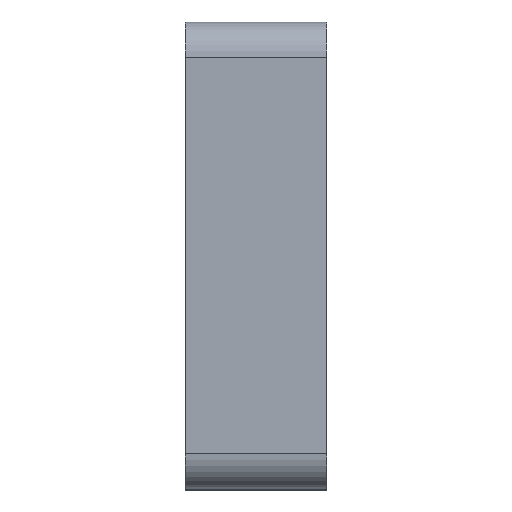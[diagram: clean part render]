
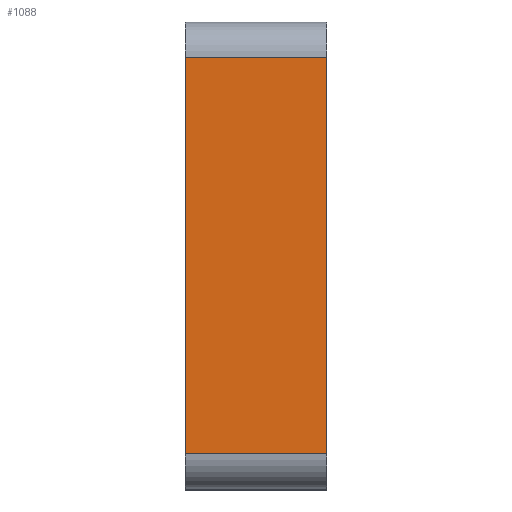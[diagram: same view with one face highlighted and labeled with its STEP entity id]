
A CAD part, top view. The second image highlights one B-rep face of the part: STEP entity #1088.
In plain terms, the highlighted planar face has unit normal (0, 0, 1).
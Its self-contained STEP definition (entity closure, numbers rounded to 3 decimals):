
#62 = PLANE('',#63);
#63 = AXIS2_PLACEMENT_3D('',#64,#65,#66);
#64 = CARTESIAN_POINT('',(-4.,21.,17.2));
#65 = DIRECTION('',(1.,0.,0.));
#66 = DIRECTION('',(-0.,0.,1.));
#118 = PLANE('',#119);
#119 = AXIS2_PLACEMENT_3D('',#120,#121,#122);
#120 = CARTESIAN_POINT('',(4.,21.,17.2));
#121 = DIRECTION('',(1.,0.,0.));
#122 = DIRECTION('',(-0.,0.,1.));
#213 = VERTEX_POINT('',#214);
#214 = CARTESIAN_POINT('',(-4.,32.25,30.8));
#229 = CYLINDRICAL_SURFACE('',#230,2.);
#230 = AXIS2_PLACEMENT_3D('',#231,#232,#233);
#231 = CARTESIAN_POINT('',(-4.,32.25,28.8));
#232 = DIRECTION('',(1.,0.,0.));
#233 = DIRECTION('',(-0.,1.,0.));
#241 = EDGE_CURVE('',#213,#242,#244,.T.);
#242 = VERTEX_POINT('',#243);
#243 = CARTESIAN_POINT('',(-4.,9.75,30.8));
#244 = SURFACE_CURVE('',#245,(#249,#256),.PCURVE_S1.);
#245 = LINE('',#246,#247);
#246 = CARTESIAN_POINT('',(-4.,34.25,30.8));
#247 = VECTOR('',#248,1.);
#248 = DIRECTION('',(0.,-1.,0.));
#249 = PCURVE('',#62,#250);
#250 = DEFINITIONAL_REPRESENTATION('',(#251),#255);
#251 = LINE('',#252,#253);
#252 = CARTESIAN_POINT('',(13.6,-13.25));
#253 = VECTOR('',#254,1.);
#254 = DIRECTION('',(0.,1.));
#255 = ( GEOMETRIC_REPRESENTATION_CONTEXT(2) 
PARAMETRIC_REPRESENTATION_CONTEXT() REPRESENTATION_CONTEXT('2D SPACE',''
  ) );
#256 = PCURVE('',#257,#262);
#257 = PLANE('',#258);
#258 = AXIS2_PLACEMENT_3D('',#259,#260,#261);
#259 = CARTESIAN_POINT('',(-4.,34.25,30.8));
#260 = DIRECTION('',(0.,0.,-1.));
#261 = DIRECTION('',(0.,-1.,0.));
#262 = DEFINITIONAL_REPRESENTATION('',(#263),#267);
#263 = LINE('',#264,#265);
#264 = CARTESIAN_POINT('',(0.,-0.));
#265 = VECTOR('',#266,1.);
#266 = DIRECTION('',(1.,0.));
#267 = ( GEOMETRIC_REPRESENTATION_CONTEXT(2) 
PARAMETRIC_REPRESENTATION_CONTEXT() REPRESENTATION_CONTEXT('2D SPACE',''
  ) );
#286 = CYLINDRICAL_SURFACE('',#287,2.);
#287 = AXIS2_PLACEMENT_3D('',#288,#289,#290);
#288 = CARTESIAN_POINT('',(-4.,9.75,28.8));
#289 = DIRECTION('',(1.,0.,0.));
#290 = DIRECTION('',(0.,-0.,1.));
#707 = VERTEX_POINT('',#708);
#708 = CARTESIAN_POINT('',(4.,32.25,30.8));
#730 = EDGE_CURVE('',#707,#731,#733,.T.);
#731 = VERTEX_POINT('',#732);
#732 = CARTESIAN_POINT('',(4.,9.75,30.8));
#733 = SURFACE_CURVE('',#734,(#738,#745),.PCURVE_S1.);
#734 = LINE('',#735,#736);
#735 = CARTESIAN_POINT('',(4.,34.25,30.8));
#736 = VECTOR('',#737,1.);
#737 = DIRECTION('',(0.,-1.,0.));
#738 = PCURVE('',#118,#739);
#739 = DEFINITIONAL_REPRESENTATION('',(#740),#744);
#740 = LINE('',#741,#742);
#741 = CARTESIAN_POINT('',(13.6,-13.25));
#742 = VECTOR('',#743,1.);
#743 = DIRECTION('',(0.,1.));
#744 = ( GEOMETRIC_REPRESENTATION_CONTEXT(2) 
PARAMETRIC_REPRESENTATION_CONTEXT() REPRESENTATION_CONTEXT('2D SPACE',''
  ) );
#745 = PCURVE('',#257,#746);
#746 = DEFINITIONAL_REPRESENTATION('',(#747),#751);
#747 = LINE('',#748,#749);
#748 = CARTESIAN_POINT('',(0.,-8.));
#749 = VECTOR('',#750,1.);
#750 = DIRECTION('',(1.,0.));
#751 = ( GEOMETRIC_REPRESENTATION_CONTEXT(2) 
PARAMETRIC_REPRESENTATION_CONTEXT() REPRESENTATION_CONTEXT('2D SPACE',''
  ) );
#1041 = EDGE_CURVE('',#242,#731,#1042,.T.);
#1042 = SURFACE_CURVE('',#1043,(#1047,#1054),.PCURVE_S1.);
#1043 = LINE('',#1044,#1045);
#1044 = CARTESIAN_POINT('',(-4.,9.75,30.8));
#1045 = VECTOR('',#1046,1.);
#1046 = DIRECTION('',(1.,0.,0.));
#1047 = PCURVE('',#286,#1048);
#1048 = DEFINITIONAL_REPRESENTATION('',(#1049),#1053);
#1049 = LINE('',#1050,#1051);
#1050 = CARTESIAN_POINT('',(0.,0.));
#1051 = VECTOR('',#1052,1.);
#1052 = DIRECTION('',(0.,1.));
#1053 = ( GEOMETRIC_REPRESENTATION_CONTEXT(2) 
PARAMETRIC_REPRESENTATION_CONTEXT() REPRESENTATION_CONTEXT('2D SPACE',''
  ) );
#1054 = PCURVE('',#257,#1055);
#1055 = DEFINITIONAL_REPRESENTATION('',(#1056),#1060);
#1056 = LINE('',#1057,#1058);
#1057 = CARTESIAN_POINT('',(24.5,0.));
#1058 = VECTOR('',#1059,1.);
#1059 = DIRECTION('',(0.,-1.));
#1060 = ( GEOMETRIC_REPRESENTATION_CONTEXT(2) 
PARAMETRIC_REPRESENTATION_CONTEXT() REPRESENTATION_CONTEXT('2D SPACE',''
  ) );
#1066 = EDGE_CURVE('',#213,#707,#1067,.T.);
#1067 = SURFACE_CURVE('',#1068,(#1072,#1079),.PCURVE_S1.);
#1068 = LINE('',#1069,#1070);
#1069 = CARTESIAN_POINT('',(-4.,32.25,30.8));
#1070 = VECTOR('',#1071,1.);
#1071 = DIRECTION('',(1.,0.,0.));
#1072 = PCURVE('',#229,#1073);
#1073 = DEFINITIONAL_REPRESENTATION('',(#1074),#1078);
#1074 = LINE('',#1075,#1076);
#1075 = CARTESIAN_POINT('',(1.571,0.));
#1076 = VECTOR('',#1077,1.);
#1077 = DIRECTION('',(0.,1.));
#1078 = ( GEOMETRIC_REPRESENTATION_CONTEXT(2) 
PARAMETRIC_REPRESENTATION_CONTEXT() REPRESENTATION_CONTEXT('2D SPACE',''
  ) );
#1079 = PCURVE('',#257,#1080);
#1080 = DEFINITIONAL_REPRESENTATION('',(#1081),#1085);
#1081 = LINE('',#1082,#1083);
#1082 = CARTESIAN_POINT('',(2.,0.));
#1083 = VECTOR('',#1084,1.);
#1084 = DIRECTION('',(0.,-1.));
#1085 = ( GEOMETRIC_REPRESENTATION_CONTEXT(2) 
PARAMETRIC_REPRESENTATION_CONTEXT() REPRESENTATION_CONTEXT('2D SPACE',''
  ) );
#1088 = ADVANCED_FACE('',(#1089),#257,.F.);
#1089 = FACE_BOUND('',#1090,.F.);
#1090 = EDGE_LOOP('',(#1091,#1092,#1093,#1094));
#1091 = ORIENTED_EDGE('',*,*,#241,.F.);
#1092 = ORIENTED_EDGE('',*,*,#1066,.T.);
#1093 = ORIENTED_EDGE('',*,*,#730,.T.);
#1094 = ORIENTED_EDGE('',*,*,#1041,.F.);
